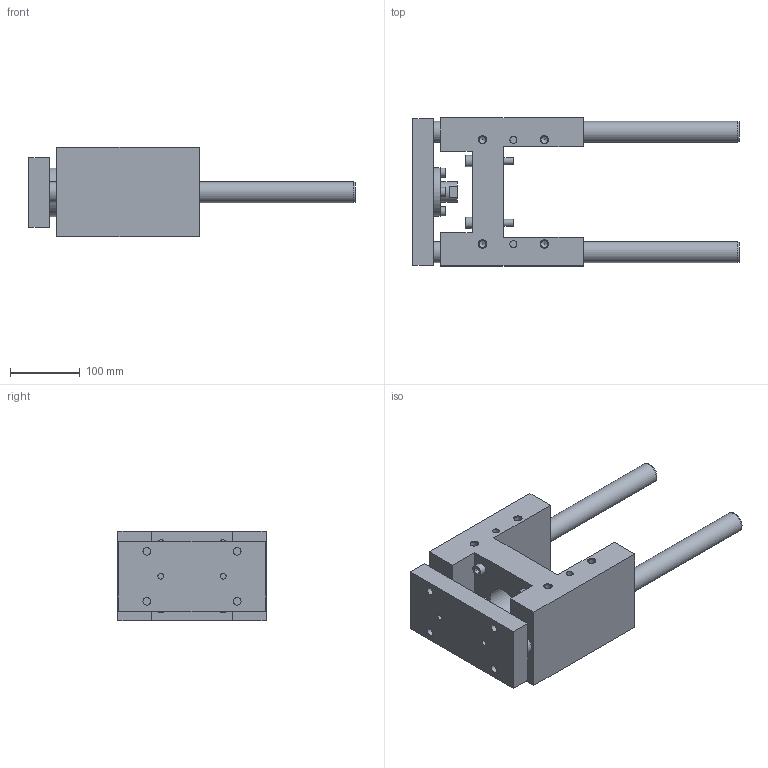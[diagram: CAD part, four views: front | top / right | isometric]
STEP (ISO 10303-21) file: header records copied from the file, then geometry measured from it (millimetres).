
FILE_DESCRIPTION( ( 'STEP AP214' ), '1' );
FILE_NAME( 'U:/Etudes/Top Solid/BIBLIO 3D AVM/TOP/PNEUMATIQUE/GUIDAGES/Type 32 (en H)/R_Renforcée/329R4130.step', '2005-05-27T09:21:06', ( ' ' ), ( ' ' ), 'XStep 1.0', ' ', ' ' );
FILE_SCHEMA( ( 'automotive_design' ) );
Length unit declared in the file: metre
Products named in the file (2): 1; 2
Bounding box: 469 x 213 x 129 mm (x, y, z)
Volume: 3877578.4 mm3; surface area: 419279.8 mm2
Topology: 2 solids, 7 shells, 207 faces, 460 edges, 303 vertices
Faces by surface type: plane 118, cylinder 68, cone 21
Full cylindrical faces by diameter (mm): 8 x10, 8.5 x4, 10 x10, 10.106 x12, 11 x8, 13 x4, 16 x4, 18 x4, 18.376 x2, 29 x1, 30 x4, 32 x1, 42 x1, 45 x1, 55 x1, 70 x1
Entity records: 6989 total; most frequent: CARTESIAN_POINT 1089, DIRECTION 880, ORIENTED_EDGE 678, EDGE_LOOP 360, AXIS2_PLACEMENT_3D 340, EDGE_CURVE 339, VERTEX_POINT 277, FACE_OUTER_BOUND 275
